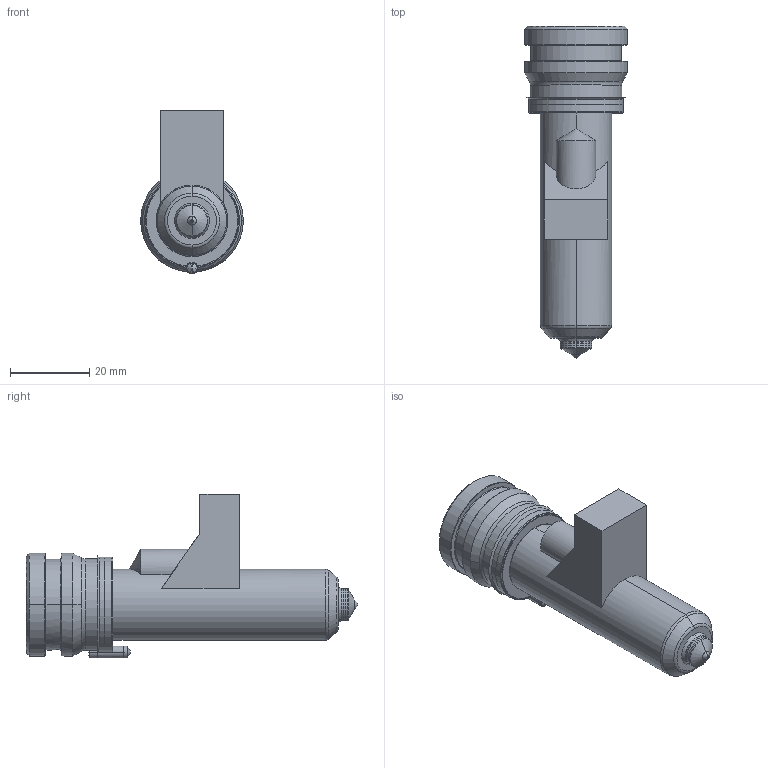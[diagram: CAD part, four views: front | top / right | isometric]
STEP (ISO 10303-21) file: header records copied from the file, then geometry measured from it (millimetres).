
FILE_DESCRIPTION((''),'2;1');
FILE_NAME('MPN-08-24-TS8-066-M','2026-02-05T13:24:11',('UPTIO'),('Thermoplay S.p.A.'),'CREO PARAMETRIC BY PTC INC, 2023494','CREO PARAMETRIC BY PTC INC, 2023494','');
FILE_SCHEMA(('CONFIG_CONTROL_DESIGN','SHAPE_APPEARANCE_LAYERS_GROUPS'));
Length unit declared in the file: millimetre
Products named in the file (1): MPN-08-24-TS8-066-M
Bounding box: 26 x 84 x 41.5 mm (x, y, z)
Volume: 17747.6 mm3; surface area: 22598.2 mm2
Topology: 2 solids, 5 shells, 532 faces, 1371 edges, 843 vertices
Faces by surface type: cylinder 172, plane 146, bspline 77, torus 62, cone 58, sphere 11, extrusion 6
Entity records: 28860 total; most frequent: CARTESIAN_POINT 13221, ORIENTED_EDGE 2720, DIRECTION 2456, EDGE_CURVE 1360, AXIS2_PLACEMENT_3D 960, VERTEX_POINT 843, EDGE_LOOP 561, VECTOR 536
